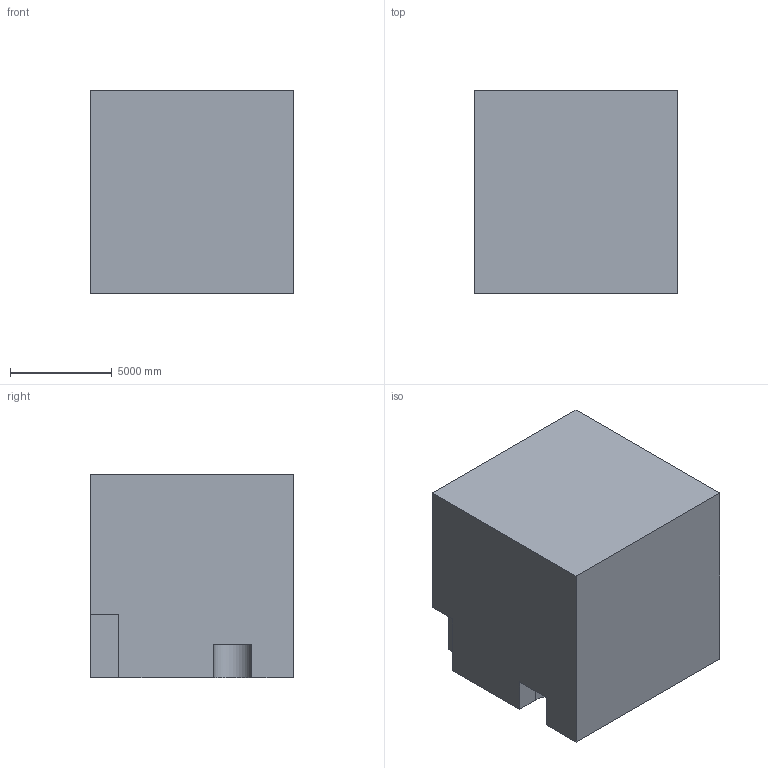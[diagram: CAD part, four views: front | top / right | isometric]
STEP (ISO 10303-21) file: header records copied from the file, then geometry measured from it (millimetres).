
FILE_DESCRIPTION (( 'STEP AP203' ), '1' );
FILE_NAME ('1157.STEP', '2022-08-18T12:59:05', ( 'user' ), ( '' ), 'SwSTEP 2.0', 'SolidWorks 2021', '' );
FILE_SCHEMA (( 'CONFIG_CONTROL_DESIGN' ));
Length unit declared in the file: centimetre
Products named in the file (1): 1157
Bounding box: 10000 x 10000 x 10000 mm (x, y, z)
Volume: 989288780005.1 mm3; surface area: 605441962.1 mm2
Topology: 1 solids, 1 shells, 13 faces, 33 edges, 22 vertices
Faces by surface type: plane 12, cylinder 1
Entity records: 466 total; most frequent: CARTESIAN_POINT 69, ORIENTED_EDGE 66, DIRECTION 63, EDGE_CURVE 33, VECTOR 31, LINE 31, VERTEX_POINT 22, AXIS2_PLACEMENT_3D 16
